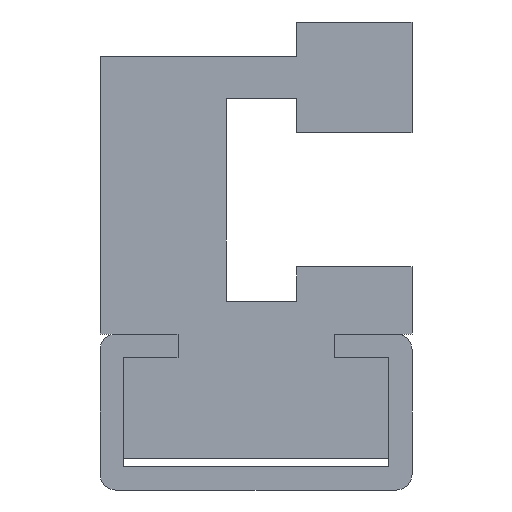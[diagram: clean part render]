
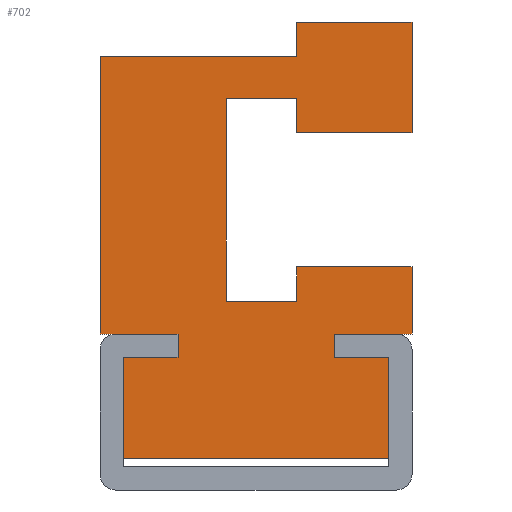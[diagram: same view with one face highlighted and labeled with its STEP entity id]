
A CAD part, front view. The second image highlights one B-rep face of the part: STEP entity #702.
In plain terms, the highlighted planar face has unit normal (0, -1, 0).
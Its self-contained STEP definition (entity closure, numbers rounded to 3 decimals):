
#61=CARTESIAN_POINT('Vertex',(2.6,0.,14.)) ;
#66=CARTESIAN_POINT('Line Origine',(6.3,0.,14.)) ;
#70=CARTESIAN_POINT('Vertex',(10.,0.,14.)) ;
#97=CARTESIAN_POINT('Line Origine',(10.,0.,10.45)) ;
#101=CARTESIAN_POINT('Vertex',(10.,0.,6.9)) ;
#128=CARTESIAN_POINT('Line Origine',(6.3,0.,6.9)) ;
#132=CARTESIAN_POINT('Vertex',(2.6,0.,6.9)) ;
#159=CARTESIAN_POINT('Line Origine',(2.6,0.,8.)) ;
#163=CARTESIAN_POINT('Vertex',(2.6,0.,9.1)) ;
#190=CARTESIAN_POINT('Line Origine',(0.35,0.,9.1)) ;
#194=CARTESIAN_POINT('Vertex',(-1.9,0.,9.1)) ;
#221=CARTESIAN_POINT('Line Origine',(-1.9,0.,2.6)) ;
#225=CARTESIAN_POINT('Vertex',(-1.9,0.,-3.9)) ;
#252=CARTESIAN_POINT('Line Origine',(0.35,0.,-3.9)) ;
#256=CARTESIAN_POINT('Vertex',(2.6,0.,-3.9)) ;
#278=CARTESIAN_POINT('Line Origine',(2.6,0.,-2.8)) ;
#282=CARTESIAN_POINT('Vertex',(2.6,0.,-1.7)) ;
#309=CARTESIAN_POINT('Line Origine',(6.3,0.,-1.7)) ;
#313=CARTESIAN_POINT('Vertex',(10.,0.,-1.7)) ;
#342=CARTESIAN_POINT('Line Origine',(10.,0.,-3.85)) ;
#346=CARTESIAN_POINT('Vertex',(10.,0.,-6.)) ;
#366=CARTESIAN_POINT('Line Origine',(7.5,0.,-6.)) ;
#370=CARTESIAN_POINT('Vertex',(5.,0.,-6.)) ;
#397=CARTESIAN_POINT('Line Origine',(5.,0.,-6.75)) ;
#401=CARTESIAN_POINT('Vertex',(5.,0.,-7.5)) ;
#435=CARTESIAN_POINT('Line Origine',(6.75,0.,-7.5)) ;
#439=CARTESIAN_POINT('Vertex',(8.5,0.,-7.5)) ;
#465=CARTESIAN_POINT('Vertex',(8.5,0.,-14.)) ;
#473=CARTESIAN_POINT('Line Origine',(8.5,0.,-10.75)) ;
#497=CARTESIAN_POINT('Line Origine',(0.,0.,-14.)) ;
#501=CARTESIAN_POINT('Vertex',(-8.5,0.,-14.)) ;
#521=CARTESIAN_POINT('Line Origine',(-8.5,0.,-10.75)) ;
#525=CARTESIAN_POINT('Vertex',(-8.5,0.,-7.5)) ;
#554=CARTESIAN_POINT('Line Origine',(-6.75,0.,-7.5)) ;
#558=CARTESIAN_POINT('Vertex',(-5.,0.,-7.5)) ;
#578=CARTESIAN_POINT('Line Origine',(-5.,0.,-6.75)) ;
#582=CARTESIAN_POINT('Vertex',(-5.,0.,-6.)) ;
#604=CARTESIAN_POINT('Line Origine',(-7.5,0.,-6.)) ;
#608=CARTESIAN_POINT('Vertex',(-10.,0.,-6.)) ;
#635=CARTESIAN_POINT('Line Origine',(-10.,0.,2.9)) ;
#639=CARTESIAN_POINT('Vertex',(-10.,0.,11.8)) ;
#661=CARTESIAN_POINT('Axis2P3D Location',(0.,0.,0.)) ;
#666=CARTESIAN_POINT('Line Origine',(2.6,0.,12.9)) ;
#670=CARTESIAN_POINT('Vertex',(2.6,0.,11.8)) ;
#673=CARTESIAN_POINT('Line Origine',(-3.7,0.,11.8)) ;
#67=DIRECTION('Vector Direction',(-1.,0.,0.)) ;
#98=DIRECTION('Vector Direction',(0.,0.,1.)) ;
#129=DIRECTION('Vector Direction',(-1.,0.,0.)) ;
#160=DIRECTION('Vector Direction',(0.,0.,1.)) ;
#191=DIRECTION('Vector Direction',(-1.,0.,0.)) ;
#222=DIRECTION('Vector Direction',(0.,0.,-1.)) ;
#253=DIRECTION('Vector Direction',(1.,0.,0.)) ;
#279=DIRECTION('Vector Direction',(0.,0.,1.)) ;
#310=DIRECTION('Vector Direction',(1.,0.,0.)) ;
#343=DIRECTION('Vector Direction',(0.,0.,1.)) ;
#367=DIRECTION('Vector Direction',(-1.,0.,0.)) ;
#398=DIRECTION('Vector Direction',(0.,0.,-1.)) ;
#436=DIRECTION('Vector Direction',(-1.,0.,0.)) ;
#474=DIRECTION('Vector Direction',(0.,0.,1.)) ;
#498=DIRECTION('Vector Direction',(1.,0.,0.)) ;
#522=DIRECTION('Vector Direction',(0.,0.,-1.)) ;
#555=DIRECTION('Vector Direction',(-1.,0.,0.)) ;
#579=DIRECTION('Vector Direction',(0.,0.,1.)) ;
#605=DIRECTION('Vector Direction',(-1.,0.,0.)) ;
#636=DIRECTION('Vector Direction',(0.,0.,-1.)) ;
#662=DIRECTION('Axis2P3D Direction',(0.,1.,0.)) ;
#663=DIRECTION('Axis2P3D XDirection',(-1.,0.,0.)) ;
#667=DIRECTION('Vector Direction',(0.,0.,1.)) ;
#674=DIRECTION('Vector Direction',(1.,0.,0.)) ;
#664=AXIS2_PLACEMENT_3D('Plane Axis2P3D',#661,#662,#663) ;
#679=ORIENTED_EDGE('',*,*,#196,.F.) ;
#680=ORIENTED_EDGE('',*,*,#165,.F.) ;
#681=ORIENTED_EDGE('',*,*,#134,.F.) ;
#682=ORIENTED_EDGE('',*,*,#103,.F.) ;
#683=ORIENTED_EDGE('',*,*,#72,.F.) ;
#684=ORIENTED_EDGE('',*,*,#672,.F.) ;
#685=ORIENTED_EDGE('',*,*,#677,.F.) ;
#686=ORIENTED_EDGE('',*,*,#641,.T.) ;
#687=ORIENTED_EDGE('',*,*,#610,.F.) ;
#688=ORIENTED_EDGE('',*,*,#584,.F.) ;
#689=ORIENTED_EDGE('',*,*,#560,.T.) ;
#690=ORIENTED_EDGE('',*,*,#527,.T.) ;
#691=ORIENTED_EDGE('',*,*,#503,.F.) ;
#692=ORIENTED_EDGE('',*,*,#477,.T.) ;
#693=ORIENTED_EDGE('',*,*,#441,.T.) ;
#694=ORIENTED_EDGE('',*,*,#403,.F.) ;
#695=ORIENTED_EDGE('',*,*,#372,.F.) ;
#696=ORIENTED_EDGE('',*,*,#348,.T.) ;
#697=ORIENTED_EDGE('',*,*,#315,.F.) ;
#698=ORIENTED_EDGE('',*,*,#284,.F.) ;
#699=ORIENTED_EDGE('',*,*,#258,.F.) ;
#700=ORIENTED_EDGE('',*,*,#227,.F.) ;
#68=VECTOR('Line Direction',#67,1.) ;
#99=VECTOR('Line Direction',#98,1.) ;
#130=VECTOR('Line Direction',#129,1.) ;
#161=VECTOR('Line Direction',#160,1.) ;
#192=VECTOR('Line Direction',#191,1.) ;
#223=VECTOR('Line Direction',#222,1.) ;
#254=VECTOR('Line Direction',#253,1.) ;
#280=VECTOR('Line Direction',#279,1.) ;
#311=VECTOR('Line Direction',#310,1.) ;
#344=VECTOR('Line Direction',#343,1.) ;
#368=VECTOR('Line Direction',#367,1.) ;
#399=VECTOR('Line Direction',#398,1.) ;
#437=VECTOR('Line Direction',#436,1.) ;
#475=VECTOR('Line Direction',#474,1.) ;
#499=VECTOR('Line Direction',#498,1.) ;
#523=VECTOR('Line Direction',#522,1.) ;
#556=VECTOR('Line Direction',#555,1.) ;
#580=VECTOR('Line Direction',#579,1.) ;
#606=VECTOR('Line Direction',#605,1.) ;
#637=VECTOR('Line Direction',#636,1.) ;
#668=VECTOR('Line Direction',#667,1.) ;
#675=VECTOR('Line Direction',#674,1.) ;
#702=ADVANCED_FACE('PartBody',(#701),#665,.F.) ;
#72=EDGE_CURVE('',#62,#71,#69,.F.) ;
#103=EDGE_CURVE('',#71,#102,#100,.F.) ;
#134=EDGE_CURVE('',#102,#133,#131,.T.) ;
#165=EDGE_CURVE('',#133,#164,#162,.T.) ;
#196=EDGE_CURVE('',#164,#195,#193,.T.) ;
#227=EDGE_CURVE('',#195,#226,#224,.T.) ;
#258=EDGE_CURVE('',#226,#257,#255,.T.) ;
#284=EDGE_CURVE('',#257,#283,#281,.T.) ;
#315=EDGE_CURVE('',#283,#314,#312,.T.) ;
#348=EDGE_CURVE('',#347,#314,#345,.T.) ;
#372=EDGE_CURVE('',#347,#371,#369,.T.) ;
#403=EDGE_CURVE('',#371,#402,#400,.T.) ;
#441=EDGE_CURVE('',#440,#402,#438,.T.) ;
#477=EDGE_CURVE('',#466,#440,#476,.T.) ;
#503=EDGE_CURVE('',#466,#502,#500,.F.) ;
#527=EDGE_CURVE('',#526,#502,#524,.T.) ;
#560=EDGE_CURVE('',#559,#526,#557,.T.) ;
#584=EDGE_CURVE('',#559,#583,#581,.T.) ;
#610=EDGE_CURVE('',#583,#609,#607,.T.) ;
#641=EDGE_CURVE('',#640,#609,#638,.T.) ;
#672=EDGE_CURVE('',#671,#62,#669,.T.) ;
#677=EDGE_CURVE('',#640,#671,#676,.T.) ;
#678=EDGE_LOOP('',(#679,#680,#681,#682,#683,#684,#685,#686,#687,#688,#689,#690,#691,#692,#693,#694,#695,#696,#697,#698,#699,#700)) ;
#701=FACE_OUTER_BOUND('',#678,.T.) ;
#69=LINE('Line',#66,#68) ;
#100=LINE('Line',#97,#99) ;
#131=LINE('Line',#128,#130) ;
#162=LINE('Line',#159,#161) ;
#193=LINE('Line',#190,#192) ;
#224=LINE('Line',#221,#223) ;
#255=LINE('Line',#252,#254) ;
#281=LINE('Line',#278,#280) ;
#312=LINE('Line',#309,#311) ;
#345=LINE('Line',#342,#344) ;
#369=LINE('Line',#366,#368) ;
#400=LINE('Line',#397,#399) ;
#438=LINE('Line',#435,#437) ;
#476=LINE('Line',#473,#475) ;
#500=LINE('Line',#497,#499) ;
#524=LINE('Line',#521,#523) ;
#557=LINE('Line',#554,#556) ;
#581=LINE('Line',#578,#580) ;
#607=LINE('Line',#604,#606) ;
#638=LINE('Line',#635,#637) ;
#669=LINE('Line',#666,#668) ;
#676=LINE('Line',#673,#675) ;
#665=PLANE('',#664) ;
#62=VERTEX_POINT('',#61) ;
#71=VERTEX_POINT('',#70) ;
#102=VERTEX_POINT('',#101) ;
#133=VERTEX_POINT('',#132) ;
#164=VERTEX_POINT('',#163) ;
#195=VERTEX_POINT('',#194) ;
#226=VERTEX_POINT('',#225) ;
#257=VERTEX_POINT('',#256) ;
#283=VERTEX_POINT('',#282) ;
#314=VERTEX_POINT('',#313) ;
#347=VERTEX_POINT('',#346) ;
#371=VERTEX_POINT('',#370) ;
#402=VERTEX_POINT('',#401) ;
#440=VERTEX_POINT('',#439) ;
#466=VERTEX_POINT('',#465) ;
#502=VERTEX_POINT('',#501) ;
#526=VERTEX_POINT('',#525) ;
#559=VERTEX_POINT('',#558) ;
#583=VERTEX_POINT('',#582) ;
#609=VERTEX_POINT('',#608) ;
#640=VERTEX_POINT('',#639) ;
#671=VERTEX_POINT('',#670) ;
